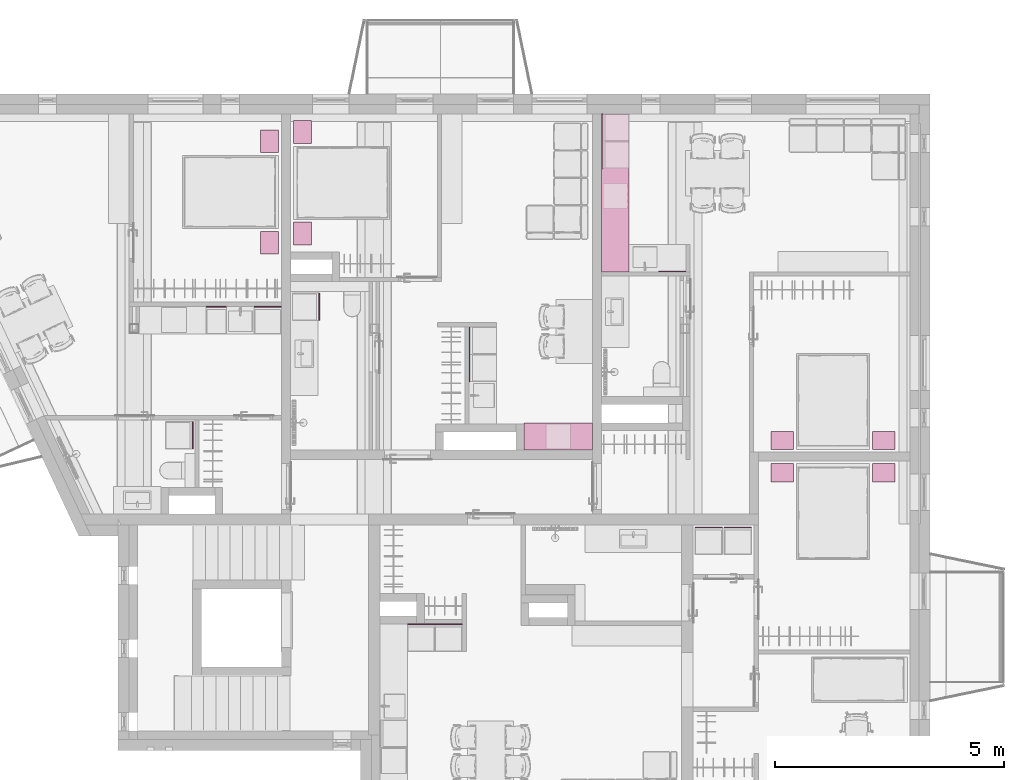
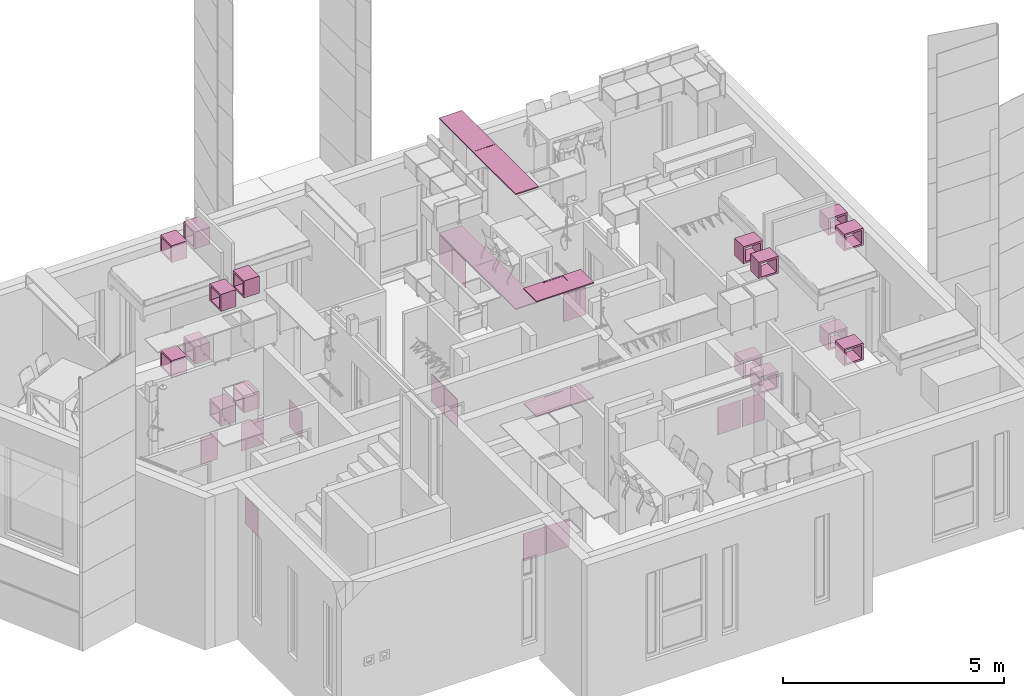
# One storey, part 95 of 125: 33 furnishings.
"""IFC2X3 building model written with IfcOpenShell, lengths in millimetres."""

from ifc_helpers import new_model, entity, si_unit, converted_unit, direction, frame, origin, origin_2d_with_axis, place, context, subcontext, project, spatial, polyline, rectangle, outline, extrude, faceted_brep, source, transform, mapped, material, type_object, type_shapes, element, save


model = new_model("IFC2X3")

# Units and contexts
model_context = context("Model", 3, precision=0.01, world=origin(), true_north=direction((6.123233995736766e-17, 1.0)))
plan_context = context("Plan", 3, precision=0.01, world=origin(), true_north=direction((6.123233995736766e-17, 1.0)))
body_context = subcontext(model_context, "Body", "Model", "MODEL_VIEW")
ifc_project = project(units=[si_unit("LENGTHUNIT", "METRE", prefix="MILLI"), converted_unit("PLANEANGLEUNIT", "DEGREE", entity("IfcPlaneAngleMeasure", 0.017453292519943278), si_unit("PLANEANGLEUNIT", "RADIAN"), dimensions=[0, 0, 0, 0, 0, 0, 0]), si_unit("AREAUNIT", "SQUARE_METRE")], contexts=[model_context, plan_context])

# Site, building, storey, space
site_placement = place(None, origin())
site = spatial("IfcSite", under=ifc_project, at=site_placement, Name="Default", CompositionType="ELEMENT")
building_placement = place(site_placement, origin())
building = spatial("IfcBuilding", under=site, at=building_placement, CompositionType="ELEMENT")
storey_placement = place(building_placement, frame((0.0, 0.0, 3125.0)))
storey = spatial("IfcBuildingStorey", under=building, at=storey_placement, Name="2K", CompositionType="ELEMENT", Elevation=3125.0)
space_1_placement = place(storey_placement, origin())
space_1 = spatial("IfcSpace", under=storey, at=space_1_placement, Name="2-1.3", CompositionType="ELEMENT", InteriorOrExteriorSpace="INTERNAL")

# Furnishing
ifc_material = material(Name="<Unnamed>")
furniture_type_1 = type_object("IfcFurnitureType", Name="HR_Furniture_Bedside-table_Generic_v1:Default", AssemblyPlace="NOTDEFINED", material=ifc_material)
shared_shape_1 = source(origin(), body_context, "Body", "SweptSolid", [
    extrude(outline(polyline([(-250.0, -235.0), (250.0, -235.0), (250.0, 235.0), (-250.0, 235.0), (-250.0, -235.0)]), holes=[polyline([(200.0, 185.0), (200.0, -185.0), (-200.0, -185.0), (-200.0, 185.0), (200.0, 185.0)])]), frame((0.0, 0.0, -2860.0), z_axis=(0.0, 1.0, 0.0), x_axis=(-1.0, 0.0, 0.0)), (0.0, 0.0, 1.0), 400.0),
])
type_shapes(furniture_type_1, [shared_shape_1])
furnishing_1_placement = place(space_1_placement, frame((3084.9935349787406, 14800.0, 3125.0), z_axis=(0.0, 0.0, 1.0), x_axis=(0.0, 1.0, 0.0)))
element("IfcFurnishingElement", 1, at=furnishing_1_placement, inside=space_1, type_object=furniture_type_1, material=ifc_material, Name="HR_Furniture_Bedside-table_Generic_v1:Default", ObjectType="HR_Furniture_Bedside-table_Generic_v1:Default", context=body_context, shape_type="MappedRepresentation", body=[
    mapped(shared_shape_1, transform((0.0, 0.0, 0.0), scale=1.0)),
])

# Space
space_2_placement = place(storey_placement, origin())
space_2 = spatial("IfcSpace", under=storey, at=space_2_placement, Name="2-2.3", CompositionType="ELEMENT", InteriorOrExteriorSpace="INTERNAL")

# Furnishing
furnishing_2_placement = place(space_2_placement, frame((3404.9935349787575, 12780.0, 3125.0), z_axis=(0.0, 0.0, 1.0), x_axis=(0.0, -1.0, 0.0)))
element("IfcFurnishingElement", 2, at=furnishing_2_placement, inside=space_2, type_object=furniture_type_1, material=ifc_material, Name="HR_Furniture_Bedside-table_Generic_v1:Default", ObjectType="HR_Furniture_Bedside-table_Generic_v1:Default", context=body_context, shape_type="MappedRepresentation", body=[
    mapped(shared_shape_1, transform((0.0, 0.0, 0.0), scale=1.0)),
])

# Space
space_3_placement = place(storey_placement, origin())
space_3 = spatial("IfcSpace", under=storey, at=space_3_placement, Name="2-3.3", CompositionType="ELEMENT", InteriorOrExteriorSpace="INTERNAL")

# Furnishing
furnishing_3_placement = place(space_3_placement, frame((16320.500000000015, 8054.999959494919, 3125.0)))
element("IfcFurnishingElement", 3, at=furnishing_3_placement, inside=space_3, type_object=furniture_type_1, material=ifc_material, Name="HR_Furniture_Bedside-table_Generic_v1:Default", ObjectType="HR_Furniture_Bedside-table_Generic_v1:Default", context=body_context, shape_type="MappedRepresentation", body=[
    mapped(shared_shape_1, transform((0.0, 0.0, 0.0), scale=1.0)),
])

# Space
space_4_placement = place(storey_placement, origin())
space_4 = spatial("IfcSpace", under=storey, at=space_4_placement, Name="2-4.4", CompositionType="ELEMENT", InteriorOrExteriorSpace="INTERNAL")

# Furnishings
furnishing_4_placement = place(space_4_placement, frame((14100.50000000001, 7744.999959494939, 3125.0), z_axis=(0.0, 0.0, 1.0), x_axis=(-1.0, 0.0, 0.0)))
element("IfcFurnishingElement", 4, at=furnishing_4_placement, inside=space_4, type_object=furniture_type_1, material=ifc_material, Name="HR_Furniture_Bedside-table_Generic_v1:Default", ObjectType="HR_Furniture_Bedside-table_Generic_v1:Default", context=body_context, shape_type="MappedRepresentation", body=[
    mapped(shared_shape_1, transform((0.0, 0.0, 0.0), scale=1.0)),
])
furnishing_5_placement = place(space_1_placement, frame((3084.9935349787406, 14800.0, 6295.0), z_axis=(0.0, 0.0, 1.0), x_axis=(0.0, 1.0, 0.0)))
element("IfcFurnishingElement", 5, at=furnishing_5_placement, inside=space_1, type_object=furniture_type_1, material=ifc_material, Name="HR_Furniture_Bedside-table_Generic_v1:Default", ObjectType="HR_Furniture_Bedside-table_Generic_v1:Default", context=body_context, shape_type="MappedRepresentation", body=[
    mapped(shared_shape_1, transform((0.0, 0.0, 0.0), scale=1.0)),
])
furnishing_6_placement = place(space_2_placement, frame((3404.9935349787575, 12780.0, 6295.0), z_axis=(0.0, 0.0, 1.0), x_axis=(0.0, -1.0, 0.0)))
element("IfcFurnishingElement", 6, at=furnishing_6_placement, inside=space_2, type_object=furniture_type_1, material=ifc_material, Name="HR_Furniture_Bedside-table_Generic_v1:Default", ObjectType="HR_Furniture_Bedside-table_Generic_v1:Default", context=body_context, shape_type="MappedRepresentation", body=[
    mapped(shared_shape_1, transform((0.0, 0.0, 0.0), scale=1.0)),
])
furnishing_7_placement = place(space_3_placement, frame((16320.500000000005, 8054.999959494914, 6295.0)))
element("IfcFurnishingElement", 7, at=furnishing_7_placement, inside=space_3, type_object=furniture_type_1, material=ifc_material, Name="HR_Furniture_Bedside-table_Generic_v1:Default", ObjectType="HR_Furniture_Bedside-table_Generic_v1:Default", context=body_context, shape_type="MappedRepresentation", body=[
    mapped(shared_shape_1, transform((0.0, 0.0, 0.0), scale=1.0)),
])
furnishing_8_placement = place(space_4_placement, frame((14100.5, 7744.999959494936, 6295.0), z_axis=(0.0, 0.0, 1.0), x_axis=(-1.0, 0.0, 0.0)))
element("IfcFurnishingElement", 8, at=furnishing_8_placement, inside=space_4, type_object=furniture_type_1, material=ifc_material, Name="HR_Furniture_Bedside-table_Generic_v1:Default", ObjectType="HR_Furniture_Bedside-table_Generic_v1:Default", context=body_context, shape_type="MappedRepresentation", body=[
    mapped(shared_shape_1, transform((0.0, 0.0, 0.0), scale=1.0)),
])
furniture_type_2 = type_object("IfcFurnitureType", Name="HR_Furniture_Bedside-table_Generic_v1:Default", AssemblyPlace="NOTDEFINED", material=ifc_material)
shared_shape_2 = source(origin(), body_context, "Body", "SweptSolid", [
    extrude(outline(polyline([(-250.0, -235.0), (250.0, -235.0), (250.0, 235.0), (-250.0, 235.0), (-250.0, -235.0)]), holes=[polyline([(200.0, 185.0), (200.0, -185.0), (-200.0, -185.0), (-200.0, 185.0), (200.0, 185.0)])]), frame((0.0, -400.0, -2860.0), z_axis=(0.0, 1.0, 0.0), x_axis=(-1.0, 0.0, 0.0)), (0.0, 0.0, 1.0), 400.0),
])
type_shapes(furniture_type_2, [shared_shape_2])
furnishing_9_placement = place(space_1_placement, frame((3084.993534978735, 12580.0, 3125.0), z_axis=(0.0, 0.0, 1.0), x_axis=(0.0, -1.0, 0.0)))
element("IfcFurnishingElement", 9, at=furnishing_9_placement, inside=space_1, type_object=furniture_type_2, material=ifc_material, Name="HR_Furniture_Bedside-table_Generic_v1:Default", ObjectType="HR_Furniture_Bedside-table_Generic_v1:Default", context=body_context, shape_type="MappedRepresentation", body=[
    mapped(shared_shape_2, transform((0.0, 0.0, 0.0), scale=1.0)),
])
furnishing_10_placement = place(space_2_placement, frame((3404.9935349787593, 15000.0, 3125.0), z_axis=(0.0, 0.0, 1.0), x_axis=(0.0, 1.0, 0.0)))
element("IfcFurnishingElement", 10, at=furnishing_10_placement, inside=space_2, type_object=furniture_type_2, material=ifc_material, Name="HR_Furniture_Bedside-table_Generic_v1:Default", ObjectType="HR_Furniture_Bedside-table_Generic_v1:Default", context=body_context, shape_type="MappedRepresentation", body=[
    mapped(shared_shape_2, transform((0.0, 0.0, 0.0), scale=1.0)),
])
furnishing_11_placement = place(space_3_placement, frame((14100.500000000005, 8054.999959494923, 3125.0), z_axis=(0.0, 0.0, 1.0), x_axis=(-1.0, 0.0, 0.0)))
element("IfcFurnishingElement", 11, at=furnishing_11_placement, inside=space_3, type_object=furniture_type_2, material=ifc_material, Name="HR_Furniture_Bedside-table_Generic_v1:Default", ObjectType="HR_Furniture_Bedside-table_Generic_v1:Default", context=body_context, shape_type="MappedRepresentation", body=[
    mapped(shared_shape_2, transform((0.0, 0.0, 0.0), scale=1.0)),
])
furnishing_12_placement = place(space_4_placement, frame((16320.500000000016, 7744.999959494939, 3125.0)))
element("IfcFurnishingElement", 12, at=furnishing_12_placement, inside=space_4, type_object=furniture_type_2, material=ifc_material, Name="HR_Furniture_Bedside-table_Generic_v1:Default", ObjectType="HR_Furniture_Bedside-table_Generic_v1:Default", context=body_context, shape_type="MappedRepresentation", body=[
    mapped(shared_shape_2, transform((0.0, 0.0, 0.0), scale=1.0)),
])
furnishing_13_placement = place(space_1_placement, frame((3084.993534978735, 12580.0, 6295.0), z_axis=(0.0, 0.0, 1.0), x_axis=(0.0, -1.0, 0.0)))
element("IfcFurnishingElement", 13, at=furnishing_13_placement, inside=space_1, type_object=furniture_type_2, material=ifc_material, Name="HR_Furniture_Bedside-table_Generic_v1:Default", ObjectType="HR_Furniture_Bedside-table_Generic_v1:Default", context=body_context, shape_type="MappedRepresentation", body=[
    mapped(shared_shape_2, transform((0.0, 0.0, 0.0), scale=1.0)),
])
furnishing_14_placement = place(space_2_placement, frame((3404.9935349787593, 15000.0, 6295.0), z_axis=(0.0, 0.0, 1.0), x_axis=(0.0, 1.0, 0.0)))
element("IfcFurnishingElement", 14, at=furnishing_14_placement, inside=space_2, type_object=furniture_type_2, material=ifc_material, Name="HR_Furniture_Bedside-table_Generic_v1:Default", ObjectType="HR_Furniture_Bedside-table_Generic_v1:Default", context=body_context, shape_type="MappedRepresentation", body=[
    mapped(shared_shape_2, transform((0.0, 0.0, 0.0), scale=1.0)),
])
furnishing_15_placement = place(space_3_placement, frame((14100.499999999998, 8054.999959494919, 6295.0), z_axis=(0.0, 0.0, 1.0), x_axis=(-1.0, 0.0, 0.0)))
element("IfcFurnishingElement", 15, at=furnishing_15_placement, inside=space_3, type_object=furniture_type_2, material=ifc_material, Name="HR_Furniture_Bedside-table_Generic_v1:Default", ObjectType="HR_Furniture_Bedside-table_Generic_v1:Default", context=body_context, shape_type="MappedRepresentation", body=[
    mapped(shared_shape_2, transform((0.0, 0.0, 0.0), scale=1.0)),
])
furnishing_16_placement = place(space_4_placement, frame((16320.50000000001, 7744.999959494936, 6295.0)))
element("IfcFurnishingElement", 16, at=furnishing_16_placement, inside=space_4, type_object=furniture_type_2, material=ifc_material, Name="HR_Furniture_Bedside-table_Generic_v1:Default", ObjectType="HR_Furniture_Bedside-table_Generic_v1:Default", context=body_context, shape_type="MappedRepresentation", body=[
    mapped(shared_shape_2, transform((0.0, 0.0, 0.0), scale=1.0)),
])

# Space
space_5_placement = place(storey_placement, origin())
space_5 = spatial("IfcSpace", under=storey, at=space_5_placement, Name="2-1.2", CompositionType="ELEMENT", InteriorOrExteriorSpace="INTERNAL")

# Furnishing
furniture_type_3 = type_object("IfcFurnitureType", Name="HR_Casework-components_Front-panel_Generic_v1_1x:Default", AssemblyPlace="NOTDEFINED", material=ifc_material)
shared_shape_3 = source(origin(), body_context, "Body", "SweptSolid", [
    extrude(outline(polyline([(-7.0, -9.500000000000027), (15.0, -9.500000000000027), (15.0, -8.499999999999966), (-6.0, -8.499999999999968), (-6.0, 8.499999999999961), (-2.0, 8.499999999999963), (-2.0, 9.500000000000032), (-7.0, 9.500000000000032), (-7.0, -9.500000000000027)])), frame((-297.0, 367.0, 9.499999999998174), z_axis=(1.0, 0.0, 0.0), x_axis=(0.0, 1.0, 0.0)), (0.0, 0.0, 1.0), 593.9999999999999),
    extrude(rectangle(XDim=594.0, YDim=745.0000000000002, at=origin_2d_with_axis()), frame((0.0, -12.500000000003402, 0.0), z_axis=(0.0, 0.0, 1.0), x_axis=(-1.0, 0.0, 0.0)), (0.0, 0.0, 1.0), 19.00000000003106),
])
type_shapes(furniture_type_3, [shared_shape_3])
furnishing_17_placement = place(space_5_placement, frame((2844.9935349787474, 11168.0, 485.0), z_axis=(0.0, 1.0, 0.0), x_axis=(-1.0, 0.0, 0.0)))
element("IfcFurnishingElement", 17, at=furnishing_17_placement, inside=space_5, type_object=furniture_type_3, material=ifc_material, Name="HR_Casework-components_Front-panel_Generic_v1_1x:Default", ObjectType="HR_Casework-components_Front-panel_Generic_v1_1x:Default", context=body_context, shape_type="MappedRepresentation", body=[
    mapped(shared_shape_3, transform((0.0, 0.0, 0.0), scale=1.0)),
])

# Space
space_6_placement = place(storey_placement, origin())
space_6 = spatial("IfcSpace", under=storey, at=space_6_placement, Name="2-1.4", CompositionType="ELEMENT", InteriorOrExteriorSpace="INTERNAL")

# Furnishing
furnishing_18_placement = place(space_6_placement, frame((1193.9935349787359, 8366.0, 485.0), z_axis=(1.0, 0.0, 0.0), x_axis=(0.0, 1.0, 0.0)))
element("IfcFurnishingElement", 18, at=furnishing_18_placement, inside=space_6, type_object=furniture_type_3, material=ifc_material, Name="HR_Casework-components_Front-panel_Generic_v1_1x:Default", ObjectType="HR_Casework-components_Front-panel_Generic_v1_1x:Default", context=body_context, shape_type="MappedRepresentation", body=[
    mapped(shared_shape_3, transform((0.0, 0.0, 0.0), scale=1.0)),
])

# Space
space_7_placement = place(storey_placement, origin())
space_7 = spatial("IfcSpace", under=storey, at=space_7_placement, Name="2-2.4", CompositionType="ELEMENT", InteriorOrExteriorSpace="INTERNAL")

# Furnishing
furnishing_19_placement = place(space_7_placement, frame((3965.993534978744, 11177.0, 485.0), z_axis=(1.0, 0.0, 0.0), x_axis=(0.0, 1.0, 0.0)))
element("IfcFurnishingElement", 19, at=furnishing_19_placement, inside=space_7, type_object=furniture_type_3, material=ifc_material, Name="HR_Casework-components_Front-panel_Generic_v1_1x:Default", ObjectType="HR_Casework-components_Front-panel_Generic_v1_1x:Default", context=body_context, shape_type="MappedRepresentation", body=[
    mapped(shared_shape_3, transform((0.0, 0.0, 0.0), scale=1.0)),
])

# Space
space_8_placement = place(storey_placement, origin())
space_8 = spatial("IfcSpace", under=storey, at=space_8_placement, Name="2-4.7", CompositionType="ELEMENT", InteriorOrExteriorSpace="INTERNAL")

# Furnishings
for number, where, z_axis, x_axis in (
    (20, (12489.993534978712, 6340.999959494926, 485.0), (0.0, 1.0, 0.0), (-1.0, 0.0, 0.0)),
    (21, (13129.99353497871, 6340.999959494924, 485.0), (0.0, 1.0, 0.0), (-1.0, 0.0, 0.0)),
):
    element("IfcFurnishingElement", number, at=place(space_8_placement, frame(where, z_axis=z_axis, x_axis=x_axis)), inside=space_8, type_object=furniture_type_3, material=ifc_material, Name="HR_Casework-components_Front-panel_Generic_v1_1x:Default", ObjectType="HR_Casework-components_Front-panel_Generic_v1_1x:Default", context=body_context, shape_type="MappedRepresentation", body=[
        mapped(shared_shape_3, transform((0.0, 0.0, 0.0), scale=1.0)),
    ])

# Space
space_9_placement = place(storey_placement, origin())
space_9 = spatial("IfcSpace", under=storey, at=space_9_placement, Name="2-4.2", CompositionType="ELEMENT", InteriorOrExteriorSpace="INTERNAL")

# Furnishings
for number, where, z_axis, x_axis in (
    (22, (6200.0, 4221.0, 485.0), (0.0, 1.0, 0.0), (-1.0, 0.0, 0.0)),
    (23, (6800.0, 4221.0, 485.0), (0.0, 1.0, 0.0), (-1.0, 0.0, 0.0)),
):
    element("IfcFurnishingElement", number, at=place(space_9_placement, frame(where, z_axis=z_axis, x_axis=x_axis)), inside=space_9, type_object=furniture_type_3, material=ifc_material, Name="HR_Casework-components_Front-panel_Generic_v1_1x:Default", ObjectType="HR_Casework-components_Front-panel_Generic_v1_1x:Default", context=body_context, shape_type="MappedRepresentation", body=[
        mapped(shared_shape_3, transform((0.0, 0.0, 0.0), scale=1.0)),
    ])

# Space
space_10_placement = place(storey_placement, origin())
space_10 = spatial("IfcSpace", under=storey, at=space_10_placement, Name="2-2.2", CompositionType="ELEMENT", InteriorOrExteriorSpace="INTERNAL")

# Furnishings
for number, where, z_axis, x_axis in (
    (24, (7269.0, 10438.0, 485.0), (-1.0, 0.0, 0.0), (0.0, -1.0, 0.0)),
    (25, (7269.0, 9838.0, 485.0), (-1.0, 0.0, 0.0), (0.0, -1.0, 0.0)),
):
    element("IfcFurnishingElement", number, at=place(space_10_placement, frame(where, z_axis=z_axis, x_axis=x_axis)), inside=space_10, type_object=furniture_type_3, material=ifc_material, Name="HR_Casework-components_Front-panel_Generic_v1_1x:Default", ObjectType="HR_Casework-components_Front-panel_Generic_v1_1x:Default", context=body_context, shape_type="MappedRepresentation", body=[
        mapped(shared_shape_3, transform((0.0, 0.0, 0.0), scale=1.0)),
    ])

# Space
space_11_placement = place(storey_placement, origin())
space_11 = spatial("IfcSpace", under=storey, at=space_11_placement, Name="2-3.2", CompositionType="ELEMENT", InteriorOrExteriorSpace="INTERNAL")

# Furnishings
for number, where, z_axis, x_axis in (
    (26, (10169.0, 15100.0, 485.0), (-1.0, 0.0, 0.0), (0.0, -1.0, 0.0)),
    (27, (11696.0, 11959.0, 485.0), (0.0, -1.0, 0.0), (1.0, 0.0, 0.0)),
    (28, (10169.0, 14500.0, 485.0), (-1.0, 0.0, 0.0), (0.0, -1.0, 0.0)),
):
    element("IfcFurnishingElement", number, at=place(space_11_placement, frame(where, z_axis=z_axis, x_axis=x_axis)), inside=space_11, type_object=furniture_type_3, material=ifc_material, Name="HR_Casework-components_Front-panel_Generic_v1_1x:Default", ObjectType="HR_Casework-components_Front-panel_Generic_v1_1x:Default", context=body_context, shape_type="MappedRepresentation", body=[
        mapped(shared_shape_3, transform((0.0, 0.0, 0.0), scale=1.0)),
    ])
furniture_type_4 = type_object("IfcFurnitureType", Name="HR_Casework-components_Front-panel_Generic_v1_1x:Default", AssemblyPlace="NOTDEFINED", material=ifc_material)
shared_shape_4 = source(origin(), body_context, "Body", "SweptSolid", [
    extrude(outline(polyline([(-7.0, -9.500000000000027), (15.0, -9.500000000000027), (15.0, -8.499999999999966), (-6.0, -8.499999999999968), (-6.0, 8.499999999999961), (-2.0, 8.499999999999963), (-2.0, 9.500000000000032), (-7.0, 9.500000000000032), (-7.0, -9.500000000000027)])), frame((-222.0, 367.0, 9.499999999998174), z_axis=(1.0, 0.0, 0.0), x_axis=(0.0, 1.0, 0.0)), (0.0, 0.0, 1.0), 444.0),
    extrude(rectangle(XDim=444.0, YDim=745.0000000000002, at=origin_2d_with_axis()), frame((0.0, -12.500000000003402, 0.0), z_axis=(0.0, 0.0, 1.0), x_axis=(-1.0, 0.0, 0.0)), (0.0, 0.0, 1.0), 19.00000000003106),
])
type_shapes(furniture_type_4, [shared_shape_4])
furnishing_20_placement = place(space_5_placement, frame((1719.9935349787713, 11168.0, 485.0), z_axis=(0.0, 1.0, 0.0), x_axis=(-1.0, 0.0, 0.0)))
element("IfcFurnishingElement", 29, at=furnishing_20_placement, inside=space_5, type_object=furniture_type_4, material=ifc_material, Name="HR_Casework-components_Front-panel_Generic_v1_1x:Default", ObjectType="HR_Casework-components_Front-panel_Generic_v1_1x:Default", context=body_context, shape_type="MappedRepresentation", body=[
    mapped(shared_shape_4, transform((0.0, 0.0, 0.0), scale=1.0)),
])
furniture_type_5 = type_object("IfcFurnitureType", Name="HR_Casework_Work-surface_Generic_Rectangular_v1:Default", AssemblyPlace="NOTDEFINED", material=ifc_material)
shared_shape_5 = source(origin(), body_context, "Body", "Brep", [
    faceted_brep([(9950.0, 8640.0, 900.0), (8450.0, 8640.0, 900.0), (8450.0, 8040.0, 900.0), (9950.0, 8040.0, 900.0), (8935.0, 8605.0, 900.0), (9465.0, 8605.0, 900.0), (9465.0, 8075.0, 900.0), (8935.0, 8075.0, 900.0), (9950.0, 8640.0, 870.0), (9950.0, 8040.0, 870.0), (8450.0, 8040.0, 870.0), (8450.0, 8640.0, 870.0), (9465.0, 8605.0, 895.0), (8935.0, 8605.0, 895.0), (8935.0, 8075.0, 895.0), (9465.0, 8075.0, 895.0)], [[[0, 1, 2, 3], [4, 5, 6, 7]], [[8, 9, 10, 11]], [[1, 0, 8, 11]], [[2, 1, 11, 10]], [[3, 2, 10, 9]], [[0, 3, 9, 8]], [[12, 13, 14, 15]], [[13, 12, 5, 4]], [[14, 13, 4, 7]], [[15, 14, 7, 6]], [[12, 15, 6, 5]]]),
])
type_shapes(furniture_type_5, [shared_shape_5])
furnishing_21_placement = place(space_10_placement, origin())
element("IfcFurnishingElement", 30, at=furnishing_21_placement, inside=space_10, type_object=furniture_type_5, material=ifc_material, Name="HR_Casework_Work-surface_Generic_Rectangular_v1:Default", ObjectType="HR_Casework_Work-surface_Generic_Rectangular_v1:Default", context=body_context, shape_type="MappedRepresentation", body=[
    mapped(shared_shape_5, transform((0.0, 0.0, 0.0), scale=1.0)),
])
furniture_type_6 = type_object("IfcFurnitureType", Name="HR_Casework_Work-surface_Generic_Rectangular_v1:Default", AssemblyPlace="NOTDEFINED", material=ifc_material)
shared_shape_6 = source(origin(), body_context, "Body", "Brep", [
    faceted_brep([(10750.0, 11940.0, 900.0), (10750.0, 15400.0, 900.0), (10150.0, 15400.0, 900.0), (10150.0, 11940.0, 900.0), (10715.0, 13865.0, 900.0), (10715.0, 13335.0, 900.0), (10185.0, 13335.0, 900.0), (10185.0, 13865.0, 900.0), (10750.0, 11940.0, 870.0), (10150.0, 11940.0, 870.0), (10150.0, 15400.0, 870.0), (10750.0, 15400.0, 870.0), (10715.0, 13335.0, 895.0), (10715.0, 13865.0, 895.0), (10185.0, 13865.0, 895.0), (10185.0, 13335.0, 895.0)], [[[0, 1, 2, 3], [4, 5, 6, 7]], [[8, 9, 10, 11]], [[1, 0, 8, 11]], [[2, 1, 11, 10]], [[3, 2, 10, 9]], [[0, 3, 9, 8]], [[12, 13, 14, 15]], [[13, 12, 5, 4]], [[14, 13, 4, 7]], [[15, 14, 7, 6]], [[12, 15, 6, 5]]]),
])
type_shapes(furniture_type_6, [shared_shape_6])
furnishing_22_placement = place(space_11_placement, origin())
element("IfcFurnishingElement", 31, at=furnishing_22_placement, inside=space_11, type_object=furniture_type_6, material=ifc_material, Name="HR_Casework_Work-surface_Generic_Rectangular_v1:Default", ObjectType="HR_Casework_Work-surface_Generic_Rectangular_v1:Default", context=body_context, shape_type="MappedRepresentation", body=[
    mapped(shared_shape_6, transform((0.0, 0.0, 0.0), scale=1.0)),
])
furniture_type_7 = type_object("IfcFurnitureType", Name="HR_Casework_Work-surface_Generic_Rectangular_v1:Default", AssemblyPlace="NOTDEFINED", material=ifc_material)
shared_shape_7 = source(origin(), body_context, "Body", "Brep", [
    faceted_brep([(9950.0, 8640.0, 900.0), (8450.0, 8640.0, 900.0), (8450.0, 8040.0, 900.0), (9950.0, 8040.0, 900.0), (8935.0, 8605.0, 900.0), (9465.0, 8605.0, 900.0), (9465.0, 8075.0, 900.0), (8935.0, 8075.0, 900.0), (9950.0, 8640.0, 870.0), (9950.0, 8040.0, 870.0), (8450.0, 8040.0, 870.0), (8450.0, 8640.0, 870.0), (9465.0, 8605.0, 895.0), (8935.0, 8605.0, 895.0), (8935.0, 8075.0, 895.0), (9465.0, 8075.0, 895.0)], [[[0, 1, 2, 3], [4, 5, 6, 7]], [[8, 9, 10, 11]], [[1, 0, 8, 11]], [[2, 1, 11, 10]], [[3, 2, 10, 9]], [[0, 3, 9, 8]], [[12, 13, 14, 15]], [[13, 12, 5, 4]], [[14, 13, 4, 7]], [[15, 14, 7, 6]], [[12, 15, 6, 5]]]),
])
type_shapes(furniture_type_7, [shared_shape_7])
furnishing_23_placement = place(space_10_placement, frame((0.0, 0.0, 3170.0)))
element("IfcFurnishingElement", 32, at=furnishing_23_placement, inside=space_10, type_object=furniture_type_7, material=ifc_material, Name="HR_Casework_Work-surface_Generic_Rectangular_v1:Default", ObjectType="HR_Casework_Work-surface_Generic_Rectangular_v1:Default", context=body_context, shape_type="MappedRepresentation", body=[
    mapped(shared_shape_7, transform((0.0, 0.0, 0.0), scale=1.0)),
])
furniture_type_8 = type_object("IfcFurnitureType", Name="HR_Casework_Work-surface_Generic_Rectangular_v1:Default", AssemblyPlace="NOTDEFINED", material=ifc_material)
shared_shape_8 = source(origin(), body_context, "Body", "Brep", [
    faceted_brep([(10750.0, 11940.0, 900.0), (10750.0, 15400.0, 900.0), (10150.0, 15400.0, 900.0), (10150.0, 11940.0, 900.0), (10715.0, 13865.0, 900.0), (10715.0, 13335.0, 900.0), (10185.0, 13335.0, 900.0), (10185.0, 13865.0, 900.0), (10750.0, 11940.0, 870.0), (10150.0, 11940.0, 870.0), (10150.0, 15400.0, 870.0), (10750.0, 15400.0, 870.0), (10715.0, 13335.0, 895.0), (10715.0, 13865.0, 895.0), (10185.0, 13865.0, 895.0), (10185.0, 13335.0, 895.0)], [[[0, 1, 2, 3], [4, 5, 6, 7]], [[8, 9, 10, 11]], [[1, 0, 8, 11]], [[2, 1, 11, 10]], [[3, 2, 10, 9]], [[0, 3, 9, 8]], [[12, 13, 14, 15]], [[13, 12, 5, 4]], [[14, 13, 4, 7]], [[15, 14, 7, 6]], [[12, 15, 6, 5]]]),
])
type_shapes(furniture_type_8, [shared_shape_8])
furnishing_24_placement = place(space_11_placement, frame((0.0, 0.0, 3170.0)))
element("IfcFurnishingElement", 33, at=furnishing_24_placement, inside=space_11, type_object=furniture_type_8, material=ifc_material, Name="HR_Casework_Work-surface_Generic_Rectangular_v1:Default", ObjectType="HR_Casework_Work-surface_Generic_Rectangular_v1:Default", context=body_context, shape_type="MappedRepresentation", body=[
    mapped(shared_shape_8, transform((0.0, 0.0, 0.0), scale=1.0)),
])

save(model, "model.ifc")
